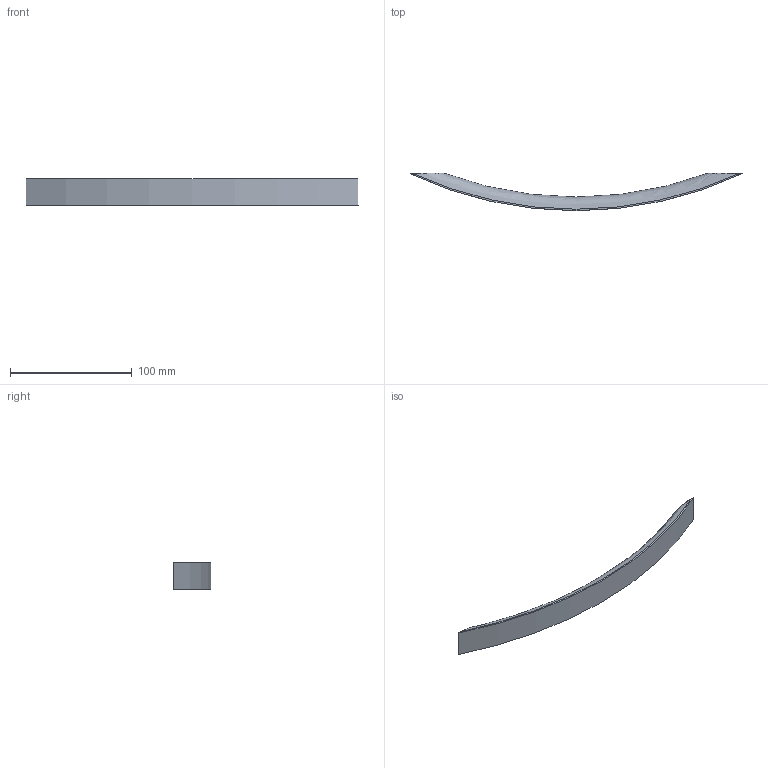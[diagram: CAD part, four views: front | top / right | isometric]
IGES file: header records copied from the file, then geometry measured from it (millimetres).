
Start section: Data from Parasolid IGES Translator 15.0.47, Copyright(c) 2006 Siemens P LM Software. All Rights Reserved.
Global section: file name: 9113334.igs; native system:  By UGS Corp.; preprocessor: XPlus GENERIC/IGES 3.0; author: Noname; organization: Noname; date: 20140122.160406; units: millimetre
Bounding box: 272.5 x 30.74 x 21.5 mm (x, y, z)
Surface area: 25799.5 mm2 (no closed solid volume)
Topology: 0 solids, 0 shells, 27 faces, 138 edges, 136 vertices
Faces by surface type: revolution 17, extrusion 10
